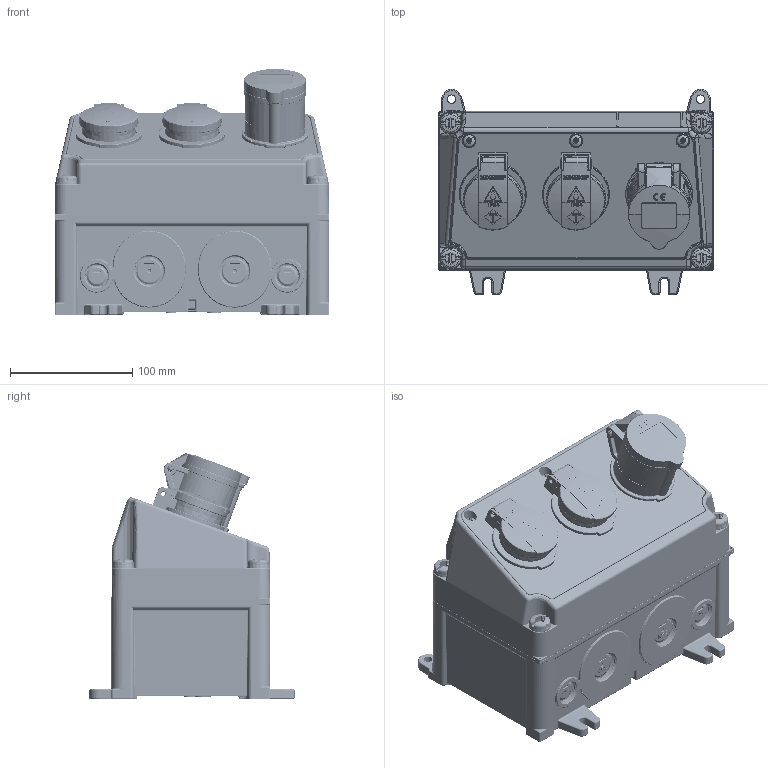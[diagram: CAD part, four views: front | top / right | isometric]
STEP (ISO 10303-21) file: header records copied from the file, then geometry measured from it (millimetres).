
FILE_DESCRIPTION((''),'2;1');
FILE_NAME('910006-3_ASM_1_ASM','2017-11-20T',('kremer'),('MENNEKES'),'PRO/ENGINEER BY PARAMETRIC TECHNOLOGY CORPORATION, 2015440','PRO/ENGINEER BY PARAMETRIC TECHNOLOGY CORPORATION, 2015440','');
FILE_SCHEMA(('AUTOMOTIVE_DESIGN { 1 0 10303 214 1 1 1 1 }'));
Products named in the file (6): 1-4_SW_O_GRAU_1; MP_LEER_GRAU_1; BAUTEIL_DUMMY__1; AMAXX_CEE_16_3_44_BLAU_1; AMAXX_SCHUKO_44_BLAU_1; 910006-3_ASM_1_ASM
Assembly tree (6 placements, depth 2):
  910006-3_ASM_1_ASM
    1-4_SW_O_GRAU_1
    MP_LEER_GRAU_1
    BAUTEIL_DUMMY__1
    AMAXX_CEE_16_3_44_BLAU_1
    AMAXX_SCHUKO_44_BLAU_1  x2
Bounding box: 225 x 168.2 x 201.23 mm (x, y, z)
Volume: 2726756.7 mm3; surface area: 356290.2 mm2
Topology: 5 solids, 5 shells, 5450 faces, 14592 edges, 9228 vertices
Faces by surface type: plane 2475, cylinder 1323, bspline 614, torus 613, sphere 192, cone 167, extrusion 66
Entity records: 229089 total; most frequent: CARTESIAN_POINT 73629, ORIENTED_EDGE 26136, DIRECTION 23012, EDGE_CURVE 13068, VERTEX_POINT 8302, AXIS2_PLACEMENT_3D 8272, VECTOR 6468, PRESENTATION_STYLE_ASSIGNMENT 6443
